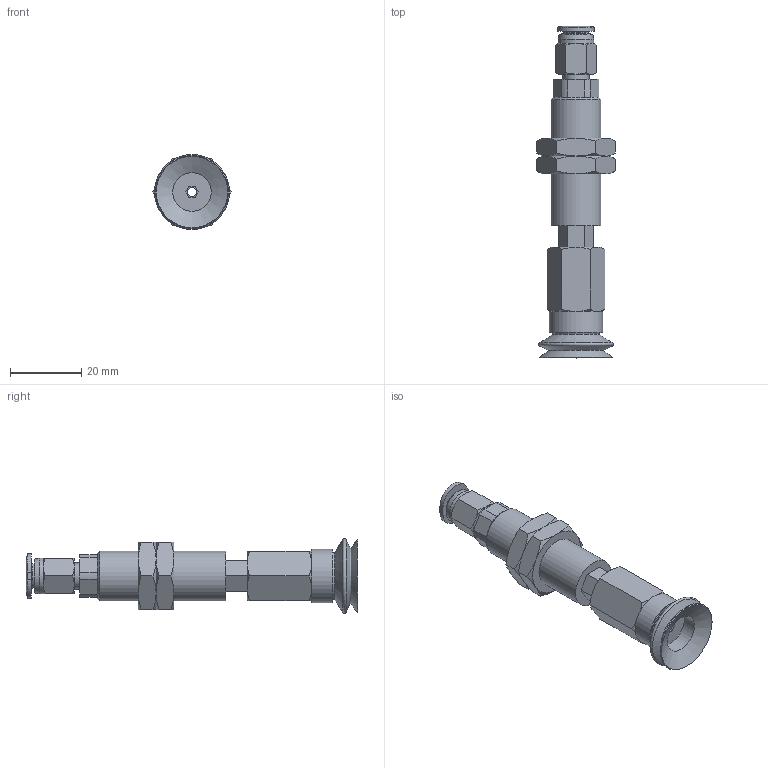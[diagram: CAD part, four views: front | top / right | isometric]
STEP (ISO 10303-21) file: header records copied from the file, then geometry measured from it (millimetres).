
FILE_DESCRIPTION(('STEP AP203'),'1');
FILE_NAME('-O.stp','2025-08-27T06:55:38',(' '),(' '),'Spatial InterOp 3D',' ',' ');
FILE_SCHEMA(('CONFIG_CONTROL_DESIGN'));
Length unit declared in the file: millimetre
Products named in the file (8): BNABPJTH-20-6-※-O; ADAPTER; NAPBTH-20-6-MBODY; Adapter-20-NAPJ; NAPJH-20-6-NUT; NAPJTH-20-6-FBODY; BPJG-20-※; PC-C_06-M5
Assembly tree (8 placements, depth 2):
  BNABPJTH-20-6-※-O
    ADAPTER
    NAPBTH-20-6-MBODY
    Adapter-20-NAPJ
    NAPJH-20-6-NUT  x2
    NAPJTH-20-6-FBODY
    BPJG-20-※
    PC-C_06-M5
Bounding box: 21.94 x 92.98 x 21 mm (x, y, z)
Volume: 12711.5 mm3; surface area: 11331.2 mm2
Topology: 7 solids, 10 shells, 188 faces, 404 edges, 247 vertices
Faces by surface type: plane 79, cone 65, cylinder 28, torus 9, bspline 4, revolution 3
Full cylindrical faces by diameter (mm): 2.5 x1, 3 x2, 4 x2, 4.134 x2, 4.6 x1, 5 x2, 7 x1, 7.4 x1, 8.2 x1, 10 x1, 10.8 x1, 11 x1, 13.188 x2, 14 x1, 15 x1
Entity records: 5036 total; most frequent: CARTESIAN_POINT 1371, DIRECTION 675, ORIENTED_EDGE 600, EDGE_CURVE 302, AXIS2_PLACEMENT_3D 282, EDGE_LOOP 236, VERTEX_POINT 210, FACE_OUTER_BOUND 133
